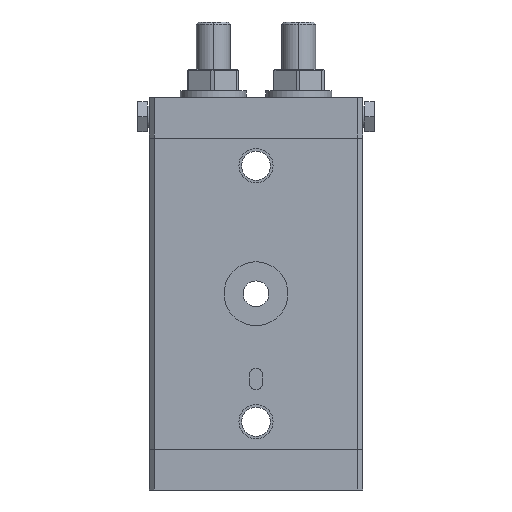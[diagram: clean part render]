
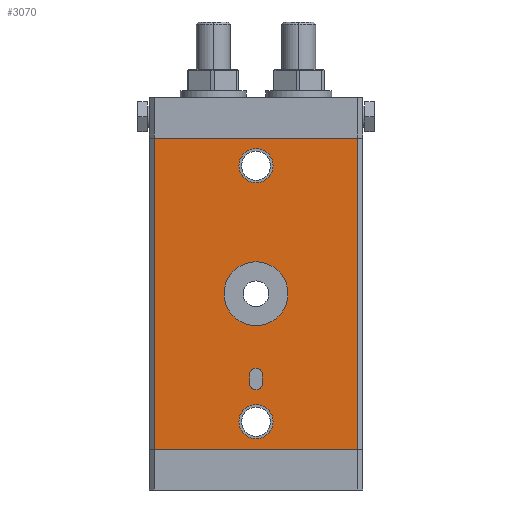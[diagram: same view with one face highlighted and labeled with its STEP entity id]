
A CAD part, front view. The second image highlights one B-rep face of the part: STEP entity #3070.
In plain terms, the highlighted planar face has unit normal (0, -1, 0).
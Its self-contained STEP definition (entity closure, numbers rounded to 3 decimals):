
#109 = CARTESIAN_POINT ( 'NONE',  ( -7.5, 0., 0. ) ) ;
#407 = EDGE_CURVE ( 'NONE', #8738, #5181, #12903, .T. ) ;
#424 = VERTEX_POINT ( 'NONE', #763 ) ;
#451 = ORIENTED_EDGE ( 'NONE', *, *, #13722, .F. ) ;
#458 = FACE_BOUND ( 'NONE', #12693, .T. ) ;
#499 = DIRECTION ( 'NONE',  ( 0., -1., 0. ) ) ;
#680 = ORIENTED_EDGE ( 'NONE', *, *, #701, .F. ) ;
#701 = EDGE_CURVE ( 'NONE', #1299, #1829, #11685, .T. ) ;
#755 = CARTESIAN_POINT ( 'NONE',  ( -23.8, 0., 36.5 ) ) ;
#763 = CARTESIAN_POINT ( 'NONE',  ( 0., 0., 34. ) ) ;
#1004 = CIRCLE ( 'NONE', #11525, 4. ) ;
#1299 = VERTEX_POINT ( 'NONE', #2718 ) ;
#1829 = VERTEX_POINT ( 'NONE', #2238 ) ;
#1885 = VECTOR ( 'NONE', #7329, 1000. ) ;
#1988 = LINE ( 'NONE', #755, #1885 ) ;
#2112 = ORIENTED_EDGE ( 'NONE', *, *, #9879, .F. ) ;
#2198 = VECTOR ( 'NONE', #12093, 1000. ) ;
#2238 = CARTESIAN_POINT ( 'NONE',  ( -23.8, 0., -36.5 ) ) ;
#2454 = VERTEX_POINT ( 'NONE', #6187 ) ;
#2569 = EDGE_CURVE ( 'NONE', #1299, #14050, #4357, .T. ) ;
#2582 = VERTEX_POINT ( 'NONE', #109 ) ;
#2592 = DIRECTION ( 'NONE',  ( 1., 0., 0. ) ) ;
#2696 = DIRECTION ( 'NONE',  ( -1., 0., 0. ) ) ;
#2718 = CARTESIAN_POINT ( 'NONE',  ( 23.8, 0., -36.5 ) ) ;
#2748 = EDGE_CURVE ( 'NONE', #10485, #2582, #6588, .T. ) ;
#2823 = EDGE_LOOP ( 'NONE', ( #8835, #13394 ) ) ;
#2824 = EDGE_CURVE ( 'NONE', #5040, #4946, #6852, .T. ) ;
#2951 = VECTOR ( 'NONE', #7585, 1000. ) ;
#2964 = EDGE_CURVE ( 'NONE', #14050, #11931, #11279, .T. ) ;
#3065 = DIRECTION ( 'NONE',  ( 0., -1., 0. ) ) ;
#3070 = ADVANCED_FACE ( 'NONE', ( #13773, #8139, #458, #12685, #11582 ), #6016, .T. ) ;
#3098 = CIRCLE ( 'NONE', #10580, 4. ) ;
#3229 = EDGE_LOOP ( 'NONE', ( #9500, #9132 ) ) ;
#3480 = EDGE_LOOP ( 'NONE', ( #12724, #13260, #680, #7584 ) ) ;
#3690 = DIRECTION ( 'NONE',  ( 0., 1., 0. ) ) ;
#3870 = DIRECTION ( 'NONE',  ( 0., 0., -1. ) ) ;
#4357 = LINE ( 'NONE', #9987, #5018 ) ;
#4451 = CIRCLE ( 'NONE', #9131, 7.5 ) ;
#4585 = CARTESIAN_POINT ( 'NONE',  ( 0., 0., -19. ) ) ;
#4632 = VERTEX_POINT ( 'NONE', #7946 ) ;
#4684 = CARTESIAN_POINT ( 'NONE',  ( 25., 0., 36.5 ) ) ;
#4782 = DIRECTION ( 'NONE',  ( -1., 0., 0. ) ) ;
#4946 = VERTEX_POINT ( 'NONE', #13491 ) ;
#5018 = VECTOR ( 'NONE', #12178, 1000. ) ;
#5040 = VERTEX_POINT ( 'NONE', #9034 ) ;
#5181 = VERTEX_POINT ( 'NONE', #14358 ) ;
#5257 = CIRCLE ( 'NONE', #10145, 1.5 ) ;
#5338 = EDGE_LOOP ( 'NONE', ( #2112, #5444, #13484, #7144 ) ) ;
#5444 = ORIENTED_EDGE ( 'NONE', *, *, #10790, .F. ) ;
#5458 = CIRCLE ( 'NONE', #7568, 1.5 ) ;
#5596 = EDGE_CURVE ( 'NONE', #11931, #1829, #1988, .T. ) ;
#5599 = EDGE_CURVE ( 'NONE', #2582, #10485, #4451, .T. ) ;
#6016 = PLANE ( 'NONE',  #10804 ) ;
#6161 = AXIS2_PLACEMENT_3D ( 'NONE', #14065, #8588, #6382 ) ;
#6187 = CARTESIAN_POINT ( 'NONE',  ( 0., 0., 26. ) ) ;
#6208 = CARTESIAN_POINT ( 'NONE',  ( 0., 0., -30. ) ) ;
#6238 = CARTESIAN_POINT ( 'NONE',  ( 0., 0., 0. ) ) ;
#6382 = DIRECTION ( 'NONE',  ( 0., 0., -1. ) ) ;
#6564 = DIRECTION ( 'NONE',  ( 0., -1., 0. ) ) ;
#6588 = CIRCLE ( 'NONE', #14298, 7.5 ) ;
#6638 = DIRECTION ( 'NONE',  ( 1., 0., 0. ) ) ;
#6796 = CARTESIAN_POINT ( 'NONE',  ( 23.8, 0., 36.5 ) ) ;
#6852 = CIRCLE ( 'NONE', #6161, 4. ) ;
#7144 = ORIENTED_EDGE ( 'NONE', *, *, #407, .F. ) ;
#7166 = CARTESIAN_POINT ( 'NONE',  ( 0., 0., 30. ) ) ;
#7297 = AXIS2_PLACEMENT_3D ( 'NONE', #10828, #3065, #10691 ) ;
#7329 = DIRECTION ( 'NONE',  ( 0., 0., -1. ) ) ;
#7568 = AXIS2_PLACEMENT_3D ( 'NONE', #4585, #13668, #6638 ) ;
#7584 = ORIENTED_EDGE ( 'NONE', *, *, #2569, .T. ) ;
#7585 = DIRECTION ( 'NONE',  ( 0., 0., -1. ) ) ;
#7687 = CARTESIAN_POINT ( 'NONE',  ( 25., 0., 36.5 ) ) ;
#7714 = CARTESIAN_POINT ( 'NONE',  ( -1.5, 0., -19. ) ) ;
#7946 = CARTESIAN_POINT ( 'NONE',  ( -1.5, 0., -19. ) ) ;
#8139 = FACE_BOUND ( 'NONE', #2823, .T. ) ;
#8452 = CARTESIAN_POINT ( 'NONE',  ( 25., 0., -36.5 ) ) ;
#8588 = DIRECTION ( 'NONE',  ( 0., -1., 0. ) ) ;
#8718 = CARTESIAN_POINT ( 'NONE',  ( 1.5, 0., -19. ) ) ;
#8733 = CARTESIAN_POINT ( 'NONE',  ( 7.5, 0., 0. ) ) ;
#8738 = VERTEX_POINT ( 'NONE', #9372 ) ;
#8820 = VECTOR ( 'NONE', #2696, 1000. ) ;
#8835 = ORIENTED_EDGE ( 'NONE', *, *, #5599, .T. ) ;
#9034 = CARTESIAN_POINT ( 'NONE',  ( 0., 0., -34. ) ) ;
#9131 = AXIS2_PLACEMENT_3D ( 'NONE', #6238, #14054, #14205 ) ;
#9132 = ORIENTED_EDGE ( 'NONE', *, *, #11660, .F. ) ;
#9148 = DIRECTION ( 'NONE',  ( 0., -1., 0. ) ) ;
#9372 = CARTESIAN_POINT ( 'NONE',  ( 1.5, 0., -21. ) ) ;
#9500 = ORIENTED_EDGE ( 'NONE', *, *, #2824, .F. ) ;
#9737 = DIRECTION ( 'NONE',  ( 1., 0., 0. ) ) ;
#9879 = EDGE_CURVE ( 'NONE', #11004, #8738, #5257, .T. ) ;
#9987 = CARTESIAN_POINT ( 'NONE',  ( 23.8, 0., 36.5 ) ) ;
#10145 = AXIS2_PLACEMENT_3D ( 'NONE', #11030, #6564, #9737 ) ;
#10189 = ORIENTED_EDGE ( 'NONE', *, *, #13984, .F. ) ;
#10341 = CARTESIAN_POINT ( 'NONE',  ( 0., 0., 0. ) ) ;
#10485 = VERTEX_POINT ( 'NONE', #8733 ) ;
#10580 = AXIS2_PLACEMENT_3D ( 'NONE', #6208, #11917, #10894 ) ;
#10691 = DIRECTION ( 'NONE',  ( 0., 0., -1. ) ) ;
#10790 = EDGE_CURVE ( 'NONE', #4632, #11004, #13211, .T. ) ;
#10804 = AXIS2_PLACEMENT_3D ( 'NONE', #4684, #9148, #2592 ) ;
#10828 = CARTESIAN_POINT ( 'NONE',  ( 0., 0., 30. ) ) ;
#10894 = DIRECTION ( 'NONE',  ( 0., 0., -1. ) ) ;
#11004 = VERTEX_POINT ( 'NONE', #11679 ) ;
#11030 = CARTESIAN_POINT ( 'NONE',  ( 0., 0., -21. ) ) ;
#11279 = LINE ( 'NONE', #7687, #14307 ) ;
#11525 = AXIS2_PLACEMENT_3D ( 'NONE', #7166, #499, #3870 ) ;
#11582 = FACE_OUTER_BOUND ( 'NONE', #3480, .T. ) ;
#11660 = EDGE_CURVE ( 'NONE', #4946, #5040, #3098, .T. ) ;
#11679 = CARTESIAN_POINT ( 'NONE',  ( -1.5, 0., -21. ) ) ;
#11685 = LINE ( 'NONE', #8452, #8820 ) ;
#11917 = DIRECTION ( 'NONE',  ( 0., -1., 0. ) ) ;
#11931 = VERTEX_POINT ( 'NONE', #13871 ) ;
#12093 = DIRECTION ( 'NONE',  ( 0., 0., 1. ) ) ;
#12178 = DIRECTION ( 'NONE',  ( 0., 0., 1. ) ) ;
#12685 = FACE_BOUND ( 'NONE', #3229, .T. ) ;
#12693 = EDGE_LOOP ( 'NONE', ( #451, #10189 ) ) ;
#12724 = ORIENTED_EDGE ( 'NONE', *, *, #2964, .T. ) ;
#12903 = LINE ( 'NONE', #8718, #2198 ) ;
#13211 = LINE ( 'NONE', #7714, #2951 ) ;
#13260 = ORIENTED_EDGE ( 'NONE', *, *, #5596, .T. ) ;
#13318 = DIRECTION ( 'NONE',  ( -1., 0., 0. ) ) ;
#13394 = ORIENTED_EDGE ( 'NONE', *, *, #2748, .T. ) ;
#13484 = ORIENTED_EDGE ( 'NONE', *, *, #14457, .F. ) ;
#13491 = CARTESIAN_POINT ( 'NONE',  ( 0., 0., -26. ) ) ;
#13603 = CIRCLE ( 'NONE', #7297, 4. ) ;
#13668 = DIRECTION ( 'NONE',  ( 0., -1., 0. ) ) ;
#13722 = EDGE_CURVE ( 'NONE', #2454, #424, #13603, .T. ) ;
#13773 = FACE_BOUND ( 'NONE', #5338, .T. ) ;
#13871 = CARTESIAN_POINT ( 'NONE',  ( -23.8, 0., 36.5 ) ) ;
#13984 = EDGE_CURVE ( 'NONE', #424, #2454, #1004, .T. ) ;
#14050 = VERTEX_POINT ( 'NONE', #6796 ) ;
#14054 = DIRECTION ( 'NONE',  ( 0., 1., 0. ) ) ;
#14065 = CARTESIAN_POINT ( 'NONE',  ( 0., 0., -30. ) ) ;
#14205 = DIRECTION ( 'NONE',  ( -1., 0., 0. ) ) ;
#14298 = AXIS2_PLACEMENT_3D ( 'NONE', #10341, #3690, #4782 ) ;
#14307 = VECTOR ( 'NONE', #13318, 1000. ) ;
#14358 = CARTESIAN_POINT ( 'NONE',  ( 1.5, 0., -19. ) ) ;
#14457 = EDGE_CURVE ( 'NONE', #5181, #4632, #5458, .T. ) ;
